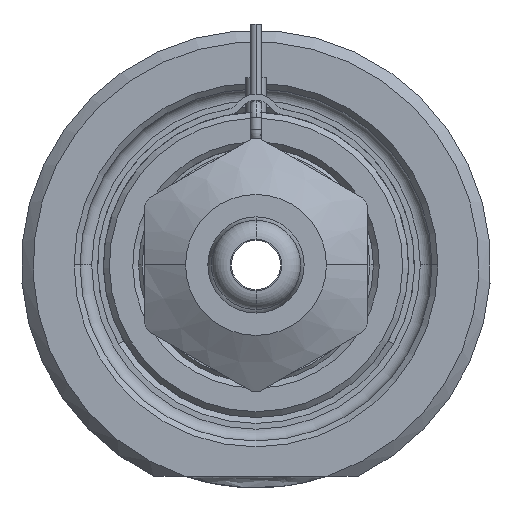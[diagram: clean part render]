
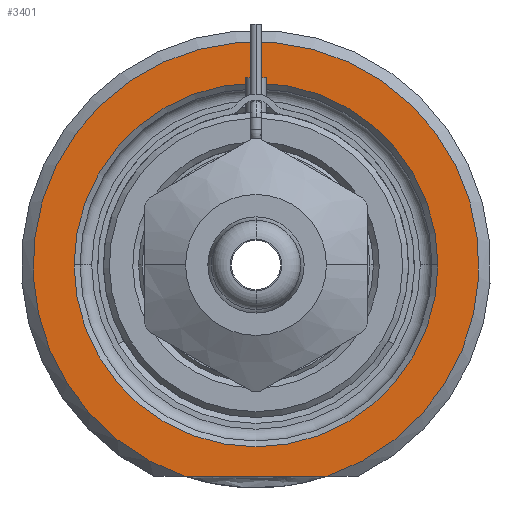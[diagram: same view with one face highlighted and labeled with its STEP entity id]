
A CAD part, front view. The second image highlights one B-rep face of the part: STEP entity #3401.
In plain terms, the highlighted planar face has unit normal (0, -1, 0).
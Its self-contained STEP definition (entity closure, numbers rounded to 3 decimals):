
#1=DIRECTION('',(1.,0.,0.));
#2=VECTOR('',#1,12.166);
#3=CARTESIAN_POINT('',(-6.083,0.,-18.));
#4=LINE('',#3,#2);
#5=CARTESIAN_POINT('',(0.,0.,0.));
#6=DIRECTION('',(0.,1.,0.));
#7=DIRECTION('',(-1.,0.,0.));
#8=AXIS2_PLACEMENT_3D('',#5,#6,#7);
#10=CARTESIAN_POINT('',(0.,0.,0.));
#11=DIRECTION('',(0.,1.,0.));
#12=DIRECTION('',(1.,0.,0.));
#13=AXIS2_PLACEMENT_3D('',#10,#11,#12);
#264=CARTESIAN_POINT('',(0.,0.,0.));
#265=DIRECTION('',(0.,-1.,0.));
#266=DIRECTION('',(0.32,0.,-0.947));
#267=AXIS2_PLACEMENT_3D('',#264,#265,#266);
#2857=CARTESIAN_POINT('',(-15.5,0.,0.));
#2858=CARTESIAN_POINT('',(15.5,0.,0.));
#2859=VERTEX_POINT('',#2857);
#2860=VERTEX_POINT('',#2858);
#2915=CARTESIAN_POINT('',(-6.083,0.,-18.));
#2916=CARTESIAN_POINT('',(6.083,0.,-18.));
#2917=VERTEX_POINT('',#2915);
#2918=VERTEX_POINT('',#2916);
#3384=CARTESIAN_POINT('',(0.,0.,0.));
#3385=DIRECTION('',(0.,-1.,0.));
#3386=DIRECTION('',(1.,0.,0.));
#3387=AXIS2_PLACEMENT_3D('',#3384,#3385,#3386);
#3388=PLANE('',#3387);
#3390=ORIENTED_EDGE('',*,*,#3389,.F.);
#3392=ORIENTED_EDGE('',*,*,#3391,.F.);
#3393=EDGE_LOOP('',(#3390,#3392));
#3394=FACE_OUTER_BOUND('',#3393,.F.);
#3396=ORIENTED_EDGE('',*,*,#3395,.F.);
#3398=ORIENTED_EDGE('',*,*,#3397,.F.);
#3399=EDGE_LOOP('',(#3396,#3398));
#3400=FACE_BOUND('',#3399,.F.);
#3401=ADVANCED_FACE('',(#3394,#3400),#3388,.T.);
#9=CIRCLE('',#8,15.5);
#14=CIRCLE('',#13,15.5);
#268=CIRCLE('',#267,19.);
#3389=EDGE_CURVE('',#2917,#2918,#4,.T.);
#3391=EDGE_CURVE('',#2918,#2917,#268,.T.);
#3395=EDGE_CURVE('',#2859,#2860,#9,.T.);
#3397=EDGE_CURVE('',#2860,#2859,#14,.T.);
